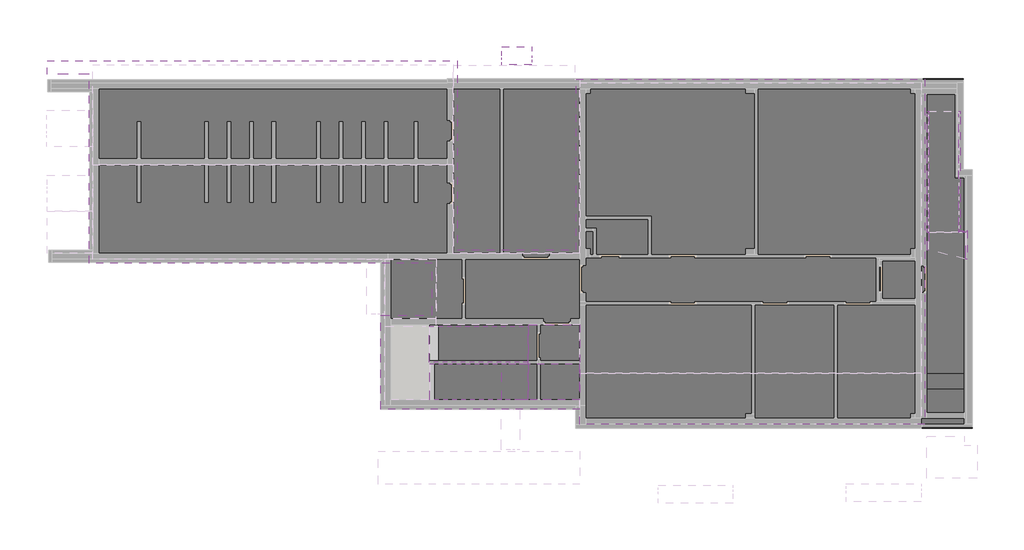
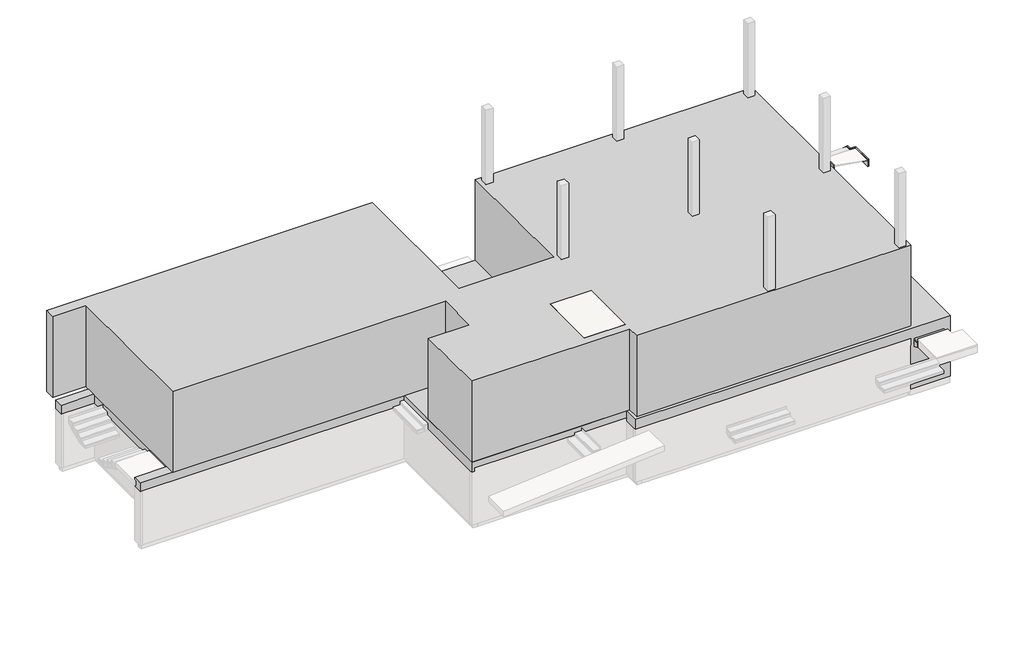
# One storey, part 3 of 3: 5 members, 5 stair flights, 2 proxies, 2 slabs.
"""IFC4 building model written with IfcOpenShell, lengths in millimetres."""

from ifc_helpers import new_model, si_unit, frame, origin, origin_with_axes, place, context, project, spatial, polyline, outline, extrude, faceted_brep, element, save

model = new_model("IFC4")

# Units and contexts
model_context = context("Model", 3, world=origin())
ifc_project = project(units=[si_unit("LENGTHUNIT", "METRE", prefix="MILLI")], contexts=[model_context])

# Site, building, storey
site = spatial("IfcSite", under=ifc_project)
building = spatial("IfcBuilding", under=site)
storey = spatial("IfcBuildingStorey", under=building, Name="Этаж -1", Elevation=-2700.0)

# Proxies
placement = place(None, origin())
element("IfcBuildingElementProxy", 1, Name="Ф Этаж 1 : Ф Этаж 1", ObjectType="Ф Этаж 1 : Ф Этаж 1", at=placement, inside=storey, context=model_context, shape_type="SweptSolid", body=[
    extrude(outline(polyline([(-1715.9332962, 11310.0), (11970.0, 11310.0), (11970.0, 5000.0), (15950.0, 5000.0), (15950.0, 10700.0), (27587.9990554, 10700.0), (27587.9990554, -820.0), (16070.0, -820.0), (16070.0, -320.0), (9430.291724, -320.0), (9430.291724, 2820.0), (11150.0, 2820.0), (11150.0, 4560.0), (-320.0, 4560.0), (-320.0, 10870.0), (-1715.9332962, 10870.0), (-1715.9332962, 11310.0)])), origin_with_axes(), (0.0, 0.0, 1.0), 3600.0),
])
element("IfcBuildingElementProxy", 2, Name="Ф Подвал : Ф Подвал", ObjectType="Ф Подвал : Ф Подвал", at=placement, inside=storey, context=model_context, shape_type="SweptSolid", body=[
    extrude(outline(polyline([(-300.0, 10280.0000008), (-1699.9999755, 10280.0000008), (-1699.9999755, 10680.0000008), (11650.0, 10680.0000008), (11650.0, 10710.0000008), (28870.0001713, 10710.0000008), (28870.0001713, 7679.9999048), (29169.9999881, 7679.9999048), (29169.9999881, -950.0), (15940.0, -950.0), (15940.0, -330.0), (9420.291724, -330.0), (9420.291724, 4580.0), (-1669.8806043, 4580.0), (-1669.8806043, 4980.0), (-300.0, 4980.0), (-300.0, 10280.0000008)])), frame((0.0, 0.0, -2700.0), z_axis=(0.0, 0.0, 1.0), x_axis=(1.0, 0.0, 0.0)), (0.0, 0.0, 1.0), 2700.0),
])

# Members
element("IfcMember", 3, ObjectType="Косоур - ширина: 50 мм", at=placement, inside=storey, context=model_context, shape_type="Brep", body=[
    faceted_brep([(28729.9990554, 9630.1367173, -50.0), (28779.9990554, 9630.1367173, -50.0), (28779.9990554, 9445.8842415, -50.0), (28729.9990554, 9445.8842415, -50.0), (28779.9990554, 5825.5100023, 3570.0), (28729.9990554, 5825.5100023, 3570.0), (28729.9990554, 5580.7367173, 3570.0), (28739.0617086, 5580.7367173, 3570.0), (28739.0617086, 5630.1367173, 3570.0), (28779.9990554, 5630.1367173, 3570.0), (28729.9990554, 9630.1367173, 187.6084916), (28779.9990554, 9630.1367173, 187.6084916), (28779.9990554, 5630.1367173, 3342.2781368), (28729.9990554, 5580.7367173, 3386.1957542), (28739.0617086, 5630.1367173, 3342.2781368), (28739.0617086, 5580.7367173, 3386.1957542)], [[[0, 1, 2, 3]], [[4, 5, 6, 7, 8, 9]], [[10, 11, 1, 0]], [[5, 4, 11, 10]], [[1, 11, 4, 9, 12, 2]], [[13, 3, 2, 12, 14, 15]], [[6, 5, 10, 0, 3, 13]], [[6, 13, 15, 7]], [[14, 8, 7, 15]], [[8, 14, 12, 9]]]),
])
element("IfcMember", 4, ObjectType="Косоур - ширина: 50 мм", at=placement, inside=storey, context=model_context, shape_type="SweptSolid", body=[
    extrude(outline(polyline([(9630.1367173, 187.6084916), (9630.1367173, -50.0), (9445.8842415, -50.0), (5580.7367173, 3386.1957542), (5580.7367173, 3570.0), (5825.5100023, 3570.0), (9630.1367173, 187.6084916)])), frame((27679.9990554, 0.0, 0.0), z_axis=(1.0, 0.0, 0.0), x_axis=(0.0, 1.0, 0.0)), (0.0, 0.0, 1.0), 50.0),
])
element("IfcMember", 5, ObjectType="Косоур - ширина: 50 мм", at=placement, inside=storey, context=model_context, shape_type="SweptSolid", body=[
    extrude(outline(polyline([(29009.0617086, 4690.3333696), (28959.0617086, 4690.3333696), (28959.0617086, 5580.1367173), (29009.0617086, 5630.1367173), (29009.0617086, 4690.3333696)])), frame((0.0, 0.0, 3270.0), z_axis=(0.0, 0.0, 1.0), x_axis=(1.0, 0.0, 0.0)), (0.0, 0.0, 1.0), 300.0),
])
element("IfcMember", 6, ObjectType="Косоур - ширина: 50 мм", at=placement, inside=storey, context=model_context, shape_type="SweptSolid", body=[
    extrude(outline(polyline([(27679.9990554, 5580.1367173), (27729.9990554, 5580.1367173), (27729.9990554, 4987.6937015), (27679.9990554, 4987.6937015), (27679.9990554, 5580.1367173)])), frame((0.0, 0.0, 3270.0), z_axis=(0.0, 0.0, 1.0), x_axis=(1.0, 0.0, 0.0)), (0.0, 0.0, 1.0), 300.0),
])
element("IfcMember", 7, ObjectType="Косоур - ширина: 50 мм", at=placement, inside=storey, context=model_context, shape_type="Brep", body=[
    faceted_brep([(28739.0617086, 5630.1367173, 3570.0), (28739.0617086, 5630.1367173, 3342.2781368), (28739.0617086, 5630.1367173, 3270.0), (28739.0617086, 5580.1367173, 3270.0), (28739.0617086, 5580.1367173, 3570.0), (28739.0617086, 5580.7367173, 3570.0), (28959.0617086, 5580.1367173, 3570.0), (29009.0617086, 5630.1367173, 3570.0), (28779.9990554, 5630.1367173, 3570.0), (28959.0617086, 5580.1367173, 3270.0), (29009.0617086, 5630.1367173, 3270.0)], [[[0, 1, 2, 3, 4, 5]], [[6, 7, 8, 0, 5, 4]], [[9, 6, 4, 3]], [[10, 9, 3, 2]], [[7, 10, 2, 1, 0, 8]], [[7, 6, 9, 10]]]),
])

# Slabs
element("IfcSlab", 8, ObjectType="Толщина 200 мм", at=placement, inside=storey, context=model_context, shape_type="Brep", body=[
    faceted_brep([(14355.5759675, 1200.0, 3600.0), (14355.5759675, 0.0, 3600.0), (14590.9861641, 0.0, 3600.0), (16075.5759675, 0.0, 3600.0), (16075.5759675, 2500.0, 3600.0), (14355.5759675, 2500.0, 3600.0), (14355.5759675, 0.0, 3450.0), (14355.5759675, 0.0, 3282.2949017), (14590.9861641, 0.0, 3400.0), (16075.5759675, 0.0, 3400.0), (16075.5759675, 2500.0, 3400.0), (14355.5759675, 2500.0, 3400.0), (14590.9861641, 1200.0, 3400.0), (14355.5759675, 1200.0, 3400.0), (14355.5759675, 1200.0, 3282.2949017)], [[[0, 1, 2, 3, 4, 5]], [[1, 6, 7, 8, 9, 3, 2]], [[4, 3, 9, 10]], [[5, 4, 10, 11]], [[8, 12, 13, 11, 10, 9]], [[1, 0, 13, 14, 7, 6]], [[0, 5, 11, 13]], [[12, 8, 7, 14]], [[13, 12, 14]]]),
])
element("IfcSlab", 9, ObjectType="Толщина 200 мм", at=placement, inside=storey, context=model_context, shape_type="SolidModel", body=[
    faceted_brep([(13468.0759675, 1200.0, -50.0), (13468.0759675, 0.0, -50.0), (13703.4861641, 0.0, -50.0), (16055.5759675, 0.0, -50.0), (16055.5759675, 1200.0, -50.0), (13703.4861641, 1200.0, -50.0), (13468.0759675, 0.0, -200.0), (13468.0759675, 0.0, -367.7050983), (13703.4861641, 0.0, -250.0), (16055.5759675, 0.0, -250.0), (16055.5759675, 1200.0, -250.0), (13468.0759675, 1200.0, -367.7050983), (13468.0759675, 1200.0, -200.0), (13703.4861641, 1200.0, -250.0)], [[[0, 1, 2, 3, 4, 5]], [[1, 6, 7, 8, 9, 3, 2]], [[4, 3, 9, 10]], [[11, 12, 0, 5, 4, 10, 13]], [[8, 13, 10, 9]], [[1, 0, 12, 11, 7, 6]], [[13, 8, 7, 11]]]),
    extrude(outline(polyline([(13455.5759675, 1200.0), (16055.5759675, 1200.0), (16055.5759675, 0.0), (13455.5759675, 0.0), (13455.5759675, 1200.0)])), frame((0.0, 0.0, -50.0), z_axis=(0.0, 0.0, 1.0), x_axis=(1.0, 0.0, 0.0)), (0.0, 0.0, 1.0), 50.0),
])

# Stair flights
element("IfcStairFlight", 10, ObjectType="Монолитный марш плитка", at=placement, inside=storey, context=model_context, shape_type="SolidModel", body=[
    faceted_brep([(28904.9999881, 2957.4999994, -2603.125), (28904.9999881, 3257.4999994, -2603.125), (27649.9990554, 3257.4999994, -2603.125), (27649.9990554, 2957.4999994, -2603.125), (28904.9999881, 2957.4999994, -2700.0), (28904.9999881, 3257.4999994, -2700.0), (27649.9990554, 3257.4999994, -2700.0), (27649.9990554, 2957.4999994, -2700.0), (28904.9999881, 2657.4999994, -2456.25), (28904.9999881, 2957.4999994, -2456.25), (27649.9990554, 2957.4999994, -2456.25), (27649.9990554, 2657.4999994, -2456.25), (28904.9999881, 2657.4999994, -2623.2621744), (28904.9999881, 2814.2410899, -2700.0), (27649.9990554, 2814.2410899, -2700.0), (27649.9990554, 2657.4999994, -2623.2621744), (28904.9999881, 2357.4999994, -2309.375), (28904.9999881, 2657.4999994, -2309.375), (27649.9990554, 2657.4999994, -2309.375), (27649.9990554, 2357.4999994, -2309.375), (28904.9999881, 2357.4999994, -2476.3871744), (27649.9990554, 2357.4999994, -2476.3871744), (28904.9999881, 2057.4999994, -2162.5), (28904.9999881, 2357.4999994, -2162.5), (27649.9990554, 2357.4999994, -2162.5), (27649.9990554, 2057.4999994, -2162.5), (28904.9999881, 2057.4999994, -2329.5121744), (27649.9990554, 2057.4999994, -2329.5121744), (28904.9999881, 1757.4999994, -2015.625), (28904.9999881, 2057.4999994, -2015.625), (27649.9990554, 2057.4999994, -2015.625), (27649.9990554, 1757.4999994, -2015.625), (28904.9999881, 1757.4999994, -2182.6371744), (27649.9990554, 1757.4999994, -2182.6371744), (28904.9999881, 1457.4999994, -1868.75), (28904.9999881, 1757.4999994, -1868.75), (27649.9990554, 1757.4999994, -1868.75), (27649.9990554, 1457.4999994, -1868.75), (28904.9999881, 1457.4999994, -2035.7621744), (27649.9990554, 1457.4999994, -2035.7621744), (28904.9999881, 1157.4999994, -1721.875), (28904.9999881, 1457.4999994, -1721.875), (27649.9990554, 1457.4999994, -1721.875), (27649.9990554, 1157.4999994, -1721.875), (28904.9999881, 1157.4999994, -1888.8871744), (27649.9990554, 1157.4999994, -1888.8871744), (28904.9999881, 857.4999994, -1575.0), (28904.9999881, 1157.4999994, -1575.0), (27649.9990554, 1157.4999994, -1575.0), (27649.9990554, 857.4999994, -1575.0), (28904.9999881, 857.4999994, -1742.0121744), (27649.9990554, 857.4999994, -1742.0121744), (28904.9999881, 557.4999994, -1428.125), (28904.9999881, 857.4999994, -1428.125), (27649.9990554, 857.4999994, -1428.125), (27649.9990554, 557.4999994, -1428.125), (28904.9999881, 557.4999994, -1595.1371744), (27649.9990554, 557.4999994, -1595.1371744), (28904.9999881, 257.4999994, -1281.25), (28904.9999881, 557.4999994, -1281.25), (27649.9990554, 557.4999994, -1281.25), (27649.9990554, 257.4999994, -1281.25), (28904.9999881, 257.4999994, -1448.2621744), (27649.9990554, 257.4999994, -1448.2621744), (28904.9999881, -42.5000006, -1134.375), (28904.9999881, 257.4999994, -1134.375), (27649.9990554, 257.4999994, -1134.375), (27649.9990554, -42.5000006, -1134.375), (28904.9999881, -42.5000006, -1301.3871744), (27649.9990554, -42.5000006, -1301.3871744), (28904.9999881, -342.5000006, -987.5), (28904.9999881, -42.5000006, -987.5), (27649.9990554, -42.5000006, -987.5), (27649.9990554, -342.5000006, -987.5), (28904.9999881, -342.5000006, -1154.5121744), (27649.9990554, -342.5000006, -1154.5121744), (28904.9999881, -642.5000006, -840.625), (28904.9999881, -342.5000006, -840.625), (27649.9990554, -342.5000006, -840.625), (27649.9990554, -642.5000006, -840.625), (28904.9999881, -642.5000006, -1007.6371744), (27649.9990554, -642.5000006, -1007.6371744), (28904.9999881, -942.5000006, -693.75), (28904.9999881, -642.5000006, -693.75), (27649.9990554, -642.5000006, -693.75), (27649.9990554, -942.5000006, -693.75), (28904.9999881, -942.5000006, -860.7621744), (27649.9990554, -942.5000006, -860.7621744), (28904.9999881, -942.5000006, -546.875), (27649.9990554, -942.5000006, -546.875), (27649.9990554, -1230.0000006, -546.875), (27649.9990554, -1242.5000006, -546.875), (28904.9999881, -1242.5000006, -546.875), (28904.9999881, -1230.0000006, -546.875), (28904.9999881, -1242.5000006, -713.8871744), (28904.9999881, -1230.0000006, -720.0069661), (27649.9990554, -1230.0000006, -720.0069661), (27649.9990554, -1242.5000006, -713.8871744)], [[[0, 1, 2, 3]], [[1, 0, 4, 5]], [[2, 1, 5, 6]], [[3, 2, 6, 7]], [[8, 9, 10, 11]], [[4, 0, 9, 8, 12, 13]], [[0, 3, 10, 9]], [[3, 7, 14, 15, 11, 10]], [[16, 17, 18, 19]], [[17, 16, 20, 12, 8]], [[8, 11, 18, 17]], [[19, 18, 11, 15, 21]], [[22, 23, 24, 25]], [[23, 22, 26, 20, 16]], [[16, 19, 24, 23]], [[25, 24, 19, 21, 27]], [[28, 29, 30, 31]], [[29, 28, 32, 26, 22]], [[22, 25, 30, 29]], [[31, 30, 25, 27, 33]], [[34, 35, 36, 37]], [[35, 34, 38, 32, 28]], [[28, 31, 36, 35]], [[37, 36, 31, 33, 39]], [[40, 41, 42, 43]], [[41, 40, 44, 38, 34]], [[34, 37, 42, 41]], [[43, 42, 37, 39, 45]], [[46, 47, 48, 49]], [[47, 46, 50, 44, 40]], [[40, 43, 48, 47]], [[49, 48, 43, 45, 51]], [[52, 53, 54, 55]], [[53, 52, 56, 50, 46]], [[46, 49, 54, 53]], [[55, 54, 49, 51, 57]], [[58, 59, 60, 61]], [[59, 58, 62, 56, 52]], [[52, 55, 60, 59]], [[61, 60, 55, 57, 63]], [[64, 65, 66, 67]], [[65, 64, 68, 62, 58]], [[58, 61, 66, 65]], [[67, 66, 61, 63, 69]], [[70, 71, 72, 73]], [[71, 70, 74, 68, 64]], [[64, 67, 72, 71]], [[73, 72, 67, 69, 75]], [[76, 77, 78, 79]], [[77, 76, 80, 74, 70]], [[70, 73, 78, 77]], [[79, 78, 73, 75, 81]], [[82, 83, 84, 85]], [[83, 82, 86, 80, 76]], [[76, 79, 84, 83]], [[85, 84, 79, 81, 87]], [[88, 89, 90, 91, 92, 93]], [[82, 88, 93, 92, 94, 95, 86]], [[82, 85, 89, 88]], [[89, 85, 87, 96, 97, 91, 90]], [[92, 91, 97, 94]], [[5, 4, 13, 14, 7, 6]], [[14, 13, 12, 20, 26, 32, 38, 44, 50, 56, 62, 68, 74, 80, 86, 95, 94, 97, 96, 87, 81, 75, 69, 63, 57, 51, 45, 39, 33, 27, 21, 15]]]),
    extrude(outline(polyline([(27649.9990554, 3257.4999994), (27649.9990554, 3269.9999994), (28904.9999881, 3269.9999994), (28904.9999881, 3257.4999994), (27649.9990554, 3257.4999994)])), frame((0.0, 0.0, -2700.0), z_axis=(0.0, 0.0, 1.0), x_axis=(1.0, 0.0, 0.0)), (0.0, 0.0, 1.0), 96.875),
    extrude(outline(polyline([(28904.9999881, 2969.9999994), (27649.9990554, 2969.9999994), (27649.9990554, 3269.9999994), (28904.9999881, 3269.9999994), (28904.9999881, 2969.9999994)])), frame((0.0, 0.0, -2603.125), z_axis=(0.0, 0.0, 1.0), x_axis=(1.0, 0.0, 0.0)), (0.0, 0.0, 1.0), 50.0),
    extrude(outline(polyline([(27649.9990554, 2957.4999994), (27649.9990554, 2969.9999994), (28904.9999881, 2969.9999994), (28904.9999881, 2957.4999994), (27649.9990554, 2957.4999994)])), frame((0.0, 0.0, -2603.125), z_axis=(0.0, 0.0, 1.0), x_axis=(1.0, 0.0, 0.0)), (0.0, 0.0, 1.0), 146.875),
    extrude(outline(polyline([(28904.9999881, 2669.9999994), (27649.9990554, 2669.9999994), (27649.9990554, 2969.9999994), (28904.9999881, 2969.9999994), (28904.9999881, 2669.9999994)])), frame((0.0, 0.0, -2456.25), z_axis=(0.0, 0.0, 1.0), x_axis=(1.0, 0.0, 0.0)), (0.0, 0.0, 1.0), 50.0),
    extrude(outline(polyline([(27649.9990554, 2657.4999994), (27649.9990554, 2669.9999994), (28904.9999881, 2669.9999994), (28904.9999881, 2657.4999994), (27649.9990554, 2657.4999994)])), frame((0.0, 0.0, -2456.25), z_axis=(0.0, 0.0, 1.0), x_axis=(1.0, 0.0, 0.0)), (0.0, 0.0, 1.0), 146.875),
    extrude(outline(polyline([(28904.9999881, 2369.9999994), (27649.9990554, 2369.9999994), (27649.9990554, 2669.9999994), (28904.9999881, 2669.9999994), (28904.9999881, 2369.9999994)])), frame((0.0, 0.0, -2309.375), z_axis=(0.0, 0.0, 1.0), x_axis=(1.0, 0.0, 0.0)), (0.0, 0.0, 1.0), 50.0),
    extrude(outline(polyline([(27649.9990554, 2357.4999994), (27649.9990554, 2369.9999994), (28904.9999881, 2369.9999994), (28904.9999881, 2357.4999994), (27649.9990554, 2357.4999994)])), frame((0.0, 0.0, -2309.375), z_axis=(0.0, 0.0, 1.0), x_axis=(1.0, 0.0, 0.0)), (0.0, 0.0, 1.0), 146.875),
    extrude(outline(polyline([(28904.9999881, 2069.9999994), (27649.9990554, 2069.9999994), (27649.9990554, 2369.9999994), (28904.9999881, 2369.9999994), (28904.9999881, 2069.9999994)])), frame((0.0, 0.0, -2162.5), z_axis=(0.0, 0.0, 1.0), x_axis=(1.0, 0.0, 0.0)), (0.0, 0.0, 1.0), 50.0),
    extrude(outline(polyline([(27649.9990554, 2057.4999994), (27649.9990554, 2069.9999994), (28904.9999881, 2069.9999994), (28904.9999881, 2057.4999994), (27649.9990554, 2057.4999994)])), frame((0.0, 0.0, -2162.5), z_axis=(0.0, 0.0, 1.0), x_axis=(1.0, 0.0, 0.0)), (0.0, 0.0, 1.0), 146.875),
    extrude(outline(polyline([(28904.9999881, 1769.9999994), (27649.9990554, 1769.9999994), (27649.9990554, 2069.9999994), (28904.9999881, 2069.9999994), (28904.9999881, 1769.9999994)])), frame((0.0, 0.0, -2015.625), z_axis=(0.0, 0.0, 1.0), x_axis=(1.0, 0.0, 0.0)), (0.0, 0.0, 1.0), 50.0),
    extrude(outline(polyline([(27649.9990554, 1757.4999994), (27649.9990554, 1769.9999994), (28904.9999881, 1769.9999994), (28904.9999881, 1757.4999994), (27649.9990554, 1757.4999994)])), frame((0.0, 0.0, -2015.625), z_axis=(0.0, 0.0, 1.0), x_axis=(1.0, 0.0, 0.0)), (0.0, 0.0, 1.0), 146.875),
    extrude(outline(polyline([(28904.9999881, 1469.9999994), (27649.9990554, 1469.9999994), (27649.9990554, 1769.9999994), (28904.9999881, 1769.9999994), (28904.9999881, 1469.9999994)])), frame((0.0, 0.0, -1868.75), z_axis=(0.0, 0.0, 1.0), x_axis=(1.0, 0.0, 0.0)), (0.0, 0.0, 1.0), 50.0),
    extrude(outline(polyline([(27649.9990554, 1457.4999994), (27649.9990554, 1469.9999994), (28904.9999881, 1469.9999994), (28904.9999881, 1457.4999994), (27649.9990554, 1457.4999994)])), frame((0.0, 0.0, -1868.75), z_axis=(0.0, 0.0, 1.0), x_axis=(1.0, 0.0, 0.0)), (0.0, 0.0, 1.0), 146.875),
    extrude(outline(polyline([(28904.9999881, 1169.9999994), (27649.9990554, 1169.9999994), (27649.9990554, 1469.9999994), (28904.9999881, 1469.9999994), (28904.9999881, 1169.9999994)])), frame((0.0, 0.0, -1721.875), z_axis=(0.0, 0.0, 1.0), x_axis=(1.0, 0.0, 0.0)), (0.0, 0.0, 1.0), 50.0),
    extrude(outline(polyline([(27649.9990554, 1157.4999994), (27649.9990554, 1169.9999994), (28904.9999881, 1169.9999994), (28904.9999881, 1157.4999994), (27649.9990554, 1157.4999994)])), frame((0.0, 0.0, -1721.875), z_axis=(0.0, 0.0, 1.0), x_axis=(1.0, 0.0, 0.0)), (0.0, 0.0, 1.0), 146.875),
    extrude(outline(polyline([(28904.9999881, 869.9999994), (27649.9990554, 869.9999994), (27649.9990554, 1169.9999994), (28904.9999881, 1169.9999994), (28904.9999881, 869.9999994)])), frame((0.0, 0.0, -1575.0), z_axis=(0.0, 0.0, 1.0), x_axis=(1.0, 0.0, 0.0)), (0.0, 0.0, 1.0), 50.0),
    extrude(outline(polyline([(27649.9990554, 857.4999994), (27649.9990554, 869.9999994), (28904.9999881, 869.9999994), (28904.9999881, 857.4999994), (27649.9990554, 857.4999994)])), frame((0.0, 0.0, -1575.0), z_axis=(0.0, 0.0, 1.0), x_axis=(1.0, 0.0, 0.0)), (0.0, 0.0, 1.0), 146.875),
    extrude(outline(polyline([(28904.9999881, 569.9999994), (27649.9990554, 569.9999994), (27649.9990554, 869.9999994), (28904.9999881, 869.9999994), (28904.9999881, 569.9999994)])), frame((0.0, 0.0, -1428.125), z_axis=(0.0, 0.0, 1.0), x_axis=(1.0, 0.0, 0.0)), (0.0, 0.0, 1.0), 50.0),
    extrude(outline(polyline([(27649.9990554, 557.4999994), (27649.9990554, 569.9999994), (28904.9999881, 569.9999994), (28904.9999881, 557.4999994), (27649.9990554, 557.4999994)])), frame((0.0, 0.0, -1428.125), z_axis=(0.0, 0.0, 1.0), x_axis=(1.0, 0.0, 0.0)), (0.0, 0.0, 1.0), 146.875),
    extrude(outline(polyline([(28904.9999881, 269.9999994), (27649.9990554, 269.9999994), (27649.9990554, 569.9999994), (28904.9999881, 569.9999994), (28904.9999881, 269.9999994)])), frame((0.0, 0.0, -1281.25), z_axis=(0.0, 0.0, 1.0), x_axis=(1.0, 0.0, 0.0)), (0.0, 0.0, 1.0), 50.0),
    extrude(outline(polyline([(27649.9990554, 257.4999994), (27649.9990554, 269.9999994), (28904.9999881, 269.9999994), (28904.9999881, 257.4999994), (27649.9990554, 257.4999994)])), frame((0.0, 0.0, -1281.25), z_axis=(0.0, 0.0, 1.0), x_axis=(1.0, 0.0, 0.0)), (0.0, 0.0, 1.0), 146.875),
    extrude(outline(polyline([(28904.9999881, -30.0000006), (27649.9990554, -30.0000006), (27649.9990554, 269.9999994), (28904.9999881, 269.9999994), (28904.9999881, -30.0000006)])), frame((0.0, 0.0, -1134.375), z_axis=(0.0, 0.0, 1.0), x_axis=(1.0, 0.0, 0.0)), (0.0, 0.0, 1.0), 50.0),
    extrude(outline(polyline([(27649.9990554, -42.5000006), (27649.9990554, -30.0000006), (28904.9999881, -30.0000006), (28904.9999881, -42.5000006), (27649.9990554, -42.5000006)])), frame((0.0, 0.0, -1134.375), z_axis=(0.0, 0.0, 1.0), x_axis=(1.0, 0.0, 0.0)), (0.0, 0.0, 1.0), 146.875),
    extrude(outline(polyline([(28904.9999881, -330.0000006), (27649.9990554, -330.0000006), (27649.9990554, -30.0000006), (28904.9999881, -30.0000006), (28904.9999881, -330.0000006)])), frame((0.0, 0.0, -987.5), z_axis=(0.0, 0.0, 1.0), x_axis=(1.0, 0.0, 0.0)), (0.0, 0.0, 1.0), 50.0),
    extrude(outline(polyline([(27649.9990554, -342.5000006), (27649.9990554, -330.0000006), (28904.9999881, -330.0000006), (28904.9999881, -342.5000006), (27649.9990554, -342.5000006)])), frame((0.0, 0.0, -987.5), z_axis=(0.0, 0.0, 1.0), x_axis=(1.0, 0.0, 0.0)), (0.0, 0.0, 1.0), 146.875),
    extrude(outline(polyline([(28904.9999881, -630.0000006), (27649.9990554, -630.0000006), (27649.9990554, -330.0000006), (28904.9999881, -330.0000006), (28904.9999881, -630.0000006)])), frame((0.0, 0.0, -840.625), z_axis=(0.0, 0.0, 1.0), x_axis=(1.0, 0.0, 0.0)), (0.0, 0.0, 1.0), 50.0),
    extrude(outline(polyline([(27649.9990554, -642.5000006), (27649.9990554, -630.0000006), (28904.9999881, -630.0000006), (28904.9999881, -642.5000006), (27649.9990554, -642.5000006)])), frame((0.0, 0.0, -840.625), z_axis=(0.0, 0.0, 1.0), x_axis=(1.0, 0.0, 0.0)), (0.0, 0.0, 1.0), 146.875),
    extrude(outline(polyline([(28904.9999881, -930.0000006), (27649.9990554, -930.0000006), (27649.9990554, -630.0000006), (28904.9999881, -630.0000006), (28904.9999881, -930.0000006)])), frame((0.0, 0.0, -693.75), z_axis=(0.0, 0.0, 1.0), x_axis=(1.0, 0.0, 0.0)), (0.0, 0.0, 1.0), 50.0),
    extrude(outline(polyline([(27649.9990554, -942.5000006), (27649.9990554, -930.0000006), (28904.9999881, -930.0000006), (28904.9999881, -942.5000006), (27649.9990554, -942.5000006)])), frame((0.0, 0.0, -693.75), z_axis=(0.0, 0.0, 1.0), x_axis=(1.0, 0.0, 0.0)), (0.0, 0.0, 1.0), 146.875),
    extrude(outline(polyline([(27649.9990554, -1242.5000006), (27649.9990554, -1230.0000006), (28904.9999881, -1230.0000006), (28904.9999881, -1242.5000006), (27649.9990554, -1242.5000006)])), frame((0.0, 0.0, -546.875), z_axis=(0.0, 0.0, 1.0), x_axis=(1.0, 0.0, 0.0)), (0.0, 0.0, 1.0), 146.875),
    extrude(outline(polyline([(28904.9999881, -1230.0000006), (27649.9990554, -1230.0000006), (27649.9990554, -930.0000006), (28904.9999881, -930.0000006), (28904.9999881, -1230.0000006)])), frame((0.0, 0.0, -546.875), z_axis=(0.0, 0.0, 1.0), x_axis=(1.0, 0.0, 0.0)), (0.0, 0.0, 1.0), 50.0),
])
element("IfcStairFlight", 11, ObjectType="Монолитный марш отд.", at=placement, inside=storey, context=model_context, shape_type="SolidModel", body=[
    faceted_brep([(13137.791724, 1300.0, -2600.0), (13437.791724, 1300.0, -2600.0), (13437.791724, 2500.0, -2600.0), (13137.791724, 2500.0, -2600.0), (13137.791724, 1300.0, -2700.0), (13437.791724, 1300.0, -2700.0), (13437.791724, 2500.0, -2700.0), (13137.791724, 2500.0, -2700.0), (12837.791724, 1300.0, -2450.0), (13137.791724, 1300.0, -2450.0), (13137.791724, 2500.0, -2450.0), (12837.791724, 2500.0, -2450.0), (12837.791724, 1300.0, -2617.7050983), (13002.3815273, 1300.0, -2700.0), (13002.3815273, 2500.0, -2700.0), (12837.791724, 2500.0, -2617.7050983), (12537.791724, 1300.0, -2300.0), (12837.791724, 1300.0, -2300.0), (12837.791724, 2500.0, -2300.0), (12537.791724, 2500.0, -2300.0), (12537.791724, 1300.0, -2467.7050983), (12537.791724, 2500.0, -2467.7050983), (12237.791724, 1300.0, -2150.0), (12537.791724, 1300.0, -2150.0), (12537.791724, 2500.0, -2150.0), (12237.791724, 2500.0, -2150.0), (12237.791724, 1300.0, -2317.7050983), (12237.791724, 2500.0, -2317.7050983), (11937.791724, 1300.0, -2000.0), (12237.791724, 1300.0, -2000.0), (12237.791724, 2500.0, -2000.0), (11937.791724, 2500.0, -2000.0), (11937.791724, 1300.0, -2167.7050983), (11937.791724, 2500.0, -2167.7050983), (11637.791724, 1300.0, -1850.0), (11937.791724, 1300.0, -1850.0), (11937.791724, 2500.0, -1850.0), (11637.791724, 2500.0, -1850.0), (11637.791724, 1300.0, -2017.7050983), (11637.791724, 2500.0, -2017.7050983), (11337.791724, 1300.0, -1700.0), (11637.791724, 1300.0, -1700.0), (11637.791724, 2500.0, -1700.0), (11337.791724, 2500.0, -1700.0), (11337.791724, 1300.0, -1867.7050983), (11337.791724, 2500.0, -1867.7050983), (11337.791724, 1300.0, -1550.0), (11337.791724, 2500.0, -1550.0), (11050.291724, 2500.0, -1550.0), (11037.791724, 2500.0, -1550.0), (11037.791724, 1300.0, -1550.0), (11050.291724, 1300.0, -1550.0), (11037.791724, 1300.0, -1600.0), (11037.791724, 1300.0, -1717.7050983), (11050.291724, 2500.0, -1723.9550983), (11037.791724, 2500.0, -1717.7050983)], [[[0, 1, 2, 3]], [[1, 0, 4, 5]], [[2, 1, 5, 6]], [[3, 2, 6, 7]], [[8, 9, 10, 11]], [[4, 0, 9, 8, 12, 13]], [[0, 3, 10, 9]], [[3, 7, 14, 15, 11, 10]], [[16, 17, 18, 19]], [[17, 16, 20, 12, 8]], [[8, 11, 18, 17]], [[19, 18, 11, 15, 21]], [[22, 23, 24, 25]], [[23, 22, 26, 20, 16]], [[16, 19, 24, 23]], [[25, 24, 19, 21, 27]], [[28, 29, 30, 31]], [[29, 28, 32, 26, 22]], [[22, 25, 30, 29]], [[31, 30, 25, 27, 33]], [[34, 35, 36, 37]], [[35, 34, 38, 32, 28]], [[28, 31, 36, 35]], [[37, 36, 31, 33, 39]], [[40, 41, 42, 43]], [[41, 40, 44, 38, 34]], [[34, 37, 42, 41]], [[43, 42, 37, 39, 45]], [[46, 47, 48, 49, 50, 51]], [[40, 46, 51, 50, 52, 53, 44]], [[40, 43, 47, 46]], [[47, 43, 45, 54, 55, 49, 48]], [[50, 49, 55, 53, 52]], [[5, 4, 13, 14, 7, 6]], [[14, 13, 12, 20, 26, 32, 38, 44, 53, 55, 54, 45, 39, 33, 27, 21, 15]]]),
    extrude(outline(polyline([(13437.791724, 2500.0), (13450.291724, 2500.0), (13450.291724, 1300.0), (13437.791724, 1300.0), (13437.791724, 2500.0)])), frame((0.0, 0.0, -2700.0), z_axis=(0.0, 0.0, 1.0), x_axis=(1.0, 0.0, 0.0)), (0.0, 0.0, 1.0), 100.0),
    extrude(outline(polyline([(13150.291724, 1300.0), (13150.291724, 2500.0), (13450.291724, 2500.0), (13450.291724, 1300.0), (13150.291724, 1300.0)])), frame((0.0, 0.0, -2600.0), z_axis=(0.0, 0.0, 1.0), x_axis=(1.0, 0.0, 0.0)), (0.0, 0.0, 1.0), 50.0),
    extrude(outline(polyline([(13137.791724, 2500.0), (13150.291724, 2500.0), (13150.291724, 1300.0), (13137.791724, 1300.0), (13137.791724, 2500.0)])), frame((0.0, 0.0, -2600.0), z_axis=(0.0, 0.0, 1.0), x_axis=(1.0, 0.0, 0.0)), (0.0, 0.0, 1.0), 150.0),
    extrude(outline(polyline([(12850.291724, 1300.0), (12850.291724, 2500.0), (13150.291724, 2500.0), (13150.291724, 1300.0), (12850.291724, 1300.0)])), frame((0.0, 0.0, -2450.0), z_axis=(0.0, 0.0, 1.0), x_axis=(1.0, 0.0, 0.0)), (0.0, 0.0, 1.0), 50.0),
    extrude(outline(polyline([(12837.791724, 2500.0), (12850.291724, 2500.0), (12850.291724, 1300.0), (12837.791724, 1300.0), (12837.791724, 2500.0)])), frame((0.0, 0.0, -2450.0), z_axis=(0.0, 0.0, 1.0), x_axis=(1.0, 0.0, 0.0)), (0.0, 0.0, 1.0), 150.0),
    extrude(outline(polyline([(12550.291724, 1300.0), (12550.291724, 2500.0), (12850.291724, 2500.0), (12850.291724, 1300.0), (12550.291724, 1300.0)])), frame((0.0, 0.0, -2300.0), z_axis=(0.0, 0.0, 1.0), x_axis=(1.0, 0.0, 0.0)), (0.0, 0.0, 1.0), 50.0),
    extrude(outline(polyline([(12537.791724, 2500.0), (12550.291724, 2500.0), (12550.291724, 1300.0), (12537.791724, 1300.0), (12537.791724, 2500.0)])), frame((0.0, 0.0, -2300.0), z_axis=(0.0, 0.0, 1.0), x_axis=(1.0, 0.0, 0.0)), (0.0, 0.0, 1.0), 150.0),
    extrude(outline(polyline([(12250.291724, 1300.0), (12250.291724, 2500.0), (12550.291724, 2500.0), (12550.291724, 1300.0), (12250.291724, 1300.0)])), frame((0.0, 0.0, -2150.0), z_axis=(0.0, 0.0, 1.0), x_axis=(1.0, 0.0, 0.0)), (0.0, 0.0, 1.0), 50.0),
    extrude(outline(polyline([(12237.791724, 2500.0), (12250.291724, 2500.0), (12250.291724, 1300.0), (12237.791724, 1300.0), (12237.791724, 2500.0)])), frame((0.0, 0.0, -2150.0), z_axis=(0.0, 0.0, 1.0), x_axis=(1.0, 0.0, 0.0)), (0.0, 0.0, 1.0), 150.0),
    extrude(outline(polyline([(11950.291724, 1300.0), (11950.291724, 2500.0), (12250.291724, 2500.0), (12250.291724, 1300.0), (11950.291724, 1300.0)])), frame((0.0, 0.0, -2000.0), z_axis=(0.0, 0.0, 1.0), x_axis=(1.0, 0.0, 0.0)), (0.0, 0.0, 1.0), 50.0),
    extrude(outline(polyline([(11937.791724, 2500.0), (11950.291724, 2500.0), (11950.291724, 1300.0), (11937.791724, 1300.0), (11937.791724, 2500.0)])), frame((0.0, 0.0, -2000.0), z_axis=(0.0, 0.0, 1.0), x_axis=(1.0, 0.0, 0.0)), (0.0, 0.0, 1.0), 150.0),
    extrude(outline(polyline([(11650.291724, 1300.0), (11650.291724, 2500.0), (11950.291724, 2500.0), (11950.291724, 1300.0), (11650.291724, 1300.0)])), frame((0.0, 0.0, -1850.0), z_axis=(0.0, 0.0, 1.0), x_axis=(1.0, 0.0, 0.0)), (0.0, 0.0, 1.0), 50.0),
    extrude(outline(polyline([(11637.791724, 2500.0), (11650.291724, 2500.0), (11650.291724, 1300.0), (11637.791724, 1300.0), (11637.791724, 2500.0)])), frame((0.0, 0.0, -1850.0), z_axis=(0.0, 0.0, 1.0), x_axis=(1.0, 0.0, 0.0)), (0.0, 0.0, 1.0), 150.0),
    extrude(outline(polyline([(11350.291724, 1300.0), (11350.291724, 2500.0), (11650.291724, 2500.0), (11650.291724, 1300.0), (11350.291724, 1300.0)])), frame((0.0, 0.0, -1700.0), z_axis=(0.0, 0.0, 1.0), x_axis=(1.0, 0.0, 0.0)), (0.0, 0.0, 1.0), 50.0),
    extrude(outline(polyline([(11337.791724, 2500.0), (11350.291724, 2500.0), (11350.291724, 1300.0), (11337.791724, 1300.0), (11337.791724, 2500.0)])), frame((0.0, 0.0, -1700.0), z_axis=(0.0, 0.0, 1.0), x_axis=(1.0, 0.0, 0.0)), (0.0, 0.0, 1.0), 150.0),
    extrude(outline(polyline([(11037.791724, 2500.0), (11050.291724, 2500.0), (11050.291724, 1300.0), (11037.791724, 1300.0), (11037.791724, 2500.0)])), frame((0.0, 0.0, -1550.0), z_axis=(0.0, 0.0, 1.0), x_axis=(1.0, 0.0, 0.0)), (0.0, 0.0, 1.0), 150.0),
    extrude(outline(polyline([(11050.291724, 1300.0), (11050.291724, 2500.0), (11350.291724, 2500.0), (11350.291724, 1300.0), (11050.291724, 1300.0)])), frame((0.0, 0.0, -1550.0), z_axis=(0.0, 0.0, 1.0), x_axis=(1.0, 0.0, 0.0)), (0.0, 0.0, 1.0), 50.0),
])
element("IfcStairFlight", 12, ObjectType="Монолитный марш", at=placement, inside=storey, context=model_context, shape_type="Brep", body=[
    faceted_brep([(14044.7036388, 1250.2996937, 150.0), (14344.7036388, 1250.2996937, 150.0), (14344.7036388, 2450.2996937, 150.0), (14044.7036388, 2450.2996937, 150.0), (14044.7036388, 1250.2996937, -17.7050983), (14309.2934422, 1250.2996937, -150.0), (14344.7036388, 1250.2996937, -150.0), (14344.7036388, 2450.2996937, -150.0), (14309.2934422, 2450.2996937, -150.0), (14044.7036388, 2450.2996937, -17.7050983), (13744.7036388, 1250.2996937, 300.0), (14044.7036388, 1250.2996937, 300.0), (14044.7036388, 2450.2996937, 300.0), (13744.7036388, 2450.2996937, 300.0), (13744.7036388, 1250.2996937, 132.2949017), (13744.7036388, 2450.2996937, 132.2949017), (13444.7036388, 1250.2996937, 450.0), (13744.7036388, 1250.2996937, 450.0), (13744.7036388, 2450.2996937, 450.0), (13444.7036388, 2450.2996937, 450.0), (13444.7036388, 1250.2996937, 282.2949017), (13444.7036388, 2450.2996937, 282.2949017), (13144.7036388, 1250.2996937, 600.0), (13444.7036388, 1250.2996937, 600.0), (13444.7036388, 2450.2996937, 600.0), (13144.7036388, 2450.2996937, 600.0), (13144.7036388, 1250.2996937, 432.2949017), (13144.7036388, 2450.2996937, 432.2949017), (12844.7036388, 1250.2996937, 750.0), (13144.7036388, 1250.2996937, 750.0), (13144.7036388, 2450.2996937, 750.0), (12844.7036388, 2450.2996937, 750.0), (12844.7036388, 1250.2996937, 582.2949017), (12844.7036388, 2450.2996937, 582.2949017), (12544.7036388, 1250.2996937, 900.0), (12844.7036388, 1250.2996937, 900.0), (12844.7036388, 2450.2996937, 900.0), (12544.7036388, 2450.2996937, 900.0), (12544.7036388, 1250.2996937, 732.2949017), (12544.7036388, 2450.2996937, 732.2949017), (12244.7036388, 1250.2996937, 1050.0), (12544.7036388, 1250.2996937, 1050.0), (12544.7036388, 2450.2996937, 1050.0), (12244.7036388, 2450.2996937, 1050.0), (12244.7036388, 1250.2996937, 882.2949017), (12244.7036388, 2450.2996937, 882.2949017), (11944.7036388, 1250.2996937, 1200.0), (12244.7036388, 1250.2996937, 1200.0), (12244.7036388, 2450.2996937, 1200.0), (11944.7036388, 2450.2996937, 1200.0), (11944.7036388, 1250.2996937, 1032.2949017), (11944.7036388, 2450.2996937, 1032.2949017), (11644.7036388, 1250.2996937, 1350.0), (11944.7036388, 1250.2996937, 1350.0), (11944.7036388, 2450.2996937, 1350.0), (11644.7036388, 2450.2996937, 1350.0), (11644.7036388, 1250.2996937, 1182.2949017), (11644.7036388, 2450.2996937, 1182.2949017), (11344.7036388, 1250.2996937, 1500.0), (11644.7036388, 1250.2996937, 1500.0), (11644.7036388, 2450.2996937, 1500.0), (11344.7036388, 2450.2996937, 1500.0), (11344.7036388, 1250.2996937, 1332.2949017), (11344.7036388, 2450.2996937, 1332.2949017), (11044.7036388, 1250.2996937, 1650.0), (11344.7036388, 1250.2996937, 1650.0), (11344.7036388, 2450.2996937, 1650.0), (11044.7036388, 2450.2996937, 1650.0), (11044.7036388, 1250.2996937, 1600.0), (11044.7036388, 1250.2996937, 1482.2949017), (11044.7036388, 2450.2996937, 1482.2949017)], [[[0, 1, 2, 3]], [[1, 0, 4, 5, 6]], [[2, 1, 6, 7]], [[3, 2, 7, 8, 9]], [[10, 11, 12, 13]], [[11, 10, 14, 4, 0]], [[0, 3, 12, 11]], [[13, 12, 3, 9, 15]], [[16, 17, 18, 19]], [[17, 16, 20, 14, 10]], [[10, 13, 18, 17]], [[19, 18, 13, 15, 21]], [[22, 23, 24, 25]], [[23, 22, 26, 20, 16]], [[16, 19, 24, 23]], [[25, 24, 19, 21, 27]], [[28, 29, 30, 31]], [[29, 28, 32, 26, 22]], [[22, 25, 30, 29]], [[31, 30, 25, 27, 33]], [[34, 35, 36, 37]], [[35, 34, 38, 32, 28]], [[28, 31, 36, 35]], [[37, 36, 31, 33, 39]], [[40, 41, 42, 43]], [[41, 40, 44, 38, 34]], [[34, 37, 42, 41]], [[43, 42, 37, 39, 45]], [[46, 47, 48, 49]], [[47, 46, 50, 44, 40]], [[40, 43, 48, 47]], [[49, 48, 43, 45, 51]], [[52, 53, 54, 55]], [[53, 52, 56, 50, 46]], [[46, 49, 54, 53]], [[55, 54, 49, 51, 57]], [[58, 59, 60, 61]], [[59, 58, 62, 56, 52]], [[52, 55, 60, 59]], [[61, 60, 55, 57, 63]], [[64, 65, 66, 67]], [[65, 64, 68, 69, 62, 58]], [[58, 61, 66, 65]], [[67, 66, 61, 63, 70]], [[64, 67, 70, 69, 68]], [[7, 6, 5, 8]], [[8, 5, 4, 14, 20, 26, 32, 38, 44, 50, 56, 62, 69, 70, 63, 57, 51, 45, 39, 33, 27, 21, 15, 9]]]),
])
element("IfcStairFlight", 13, ObjectType="Монолитный марш", at=placement, inside=storey, context=model_context, shape_type="Brep", body=[
    faceted_brep([(11355.5759675, 1200.0, 1950.0), (11055.5759675, 1200.0, 1950.0), (11055.5759675, 0.0, 1950.0), (11355.5759675, 0.0, 1950.0), (11355.5759675, 1200.0, 1782.2949017), (11055.5759675, 1200.0, 1632.2949017), (11055.5759675, 1200.0, 1800.0), (11055.5759675, 0.0, 1632.2949017), (11055.5759675, 0.0, 1800.0), (11355.5759675, 0.0, 1782.2949017), (11655.5759675, 1200.0, 2100.0), (11355.5759675, 1200.0, 2100.0), (11355.5759675, 0.0, 2100.0), (11655.5759675, 0.0, 2100.0), (11655.5759675, 1200.0, 1932.2949017), (11655.5759675, 0.0, 1932.2949017), (11955.5759675, 1200.0, 2250.0), (11655.5759675, 1200.0, 2250.0), (11655.5759675, 0.0, 2250.0), (11955.5759675, 0.0, 2250.0), (11955.5759675, 1200.0, 2082.2949017), (11955.5759675, 0.0, 2082.2949017), (12255.5759675, 1200.0, 2400.0), (11955.5759675, 1200.0, 2400.0), (11955.5759675, 0.0, 2400.0), (12255.5759675, 0.0, 2400.0), (12255.5759675, 1200.0, 2232.2949017), (12255.5759675, 0.0, 2232.2949017), (12555.5759675, 1200.0, 2550.0), (12255.5759675, 1200.0, 2550.0), (12255.5759675, 0.0, 2550.0), (12555.5759675, 0.0, 2550.0), (12555.5759675, 1200.0, 2382.2949017), (12555.5759675, 0.0, 2382.2949017), (12855.5759675, 1200.0, 2700.0), (12555.5759675, 1200.0, 2700.0), (12555.5759675, 0.0, 2700.0), (12855.5759675, 0.0, 2700.0), (12855.5759675, 1200.0, 2532.2949017), (12855.5759675, 0.0, 2532.2949017), (13155.5759675, 1200.0, 2850.0), (12855.5759675, 1200.0, 2850.0), (12855.5759675, 0.0, 2850.0), (13155.5759675, 0.0, 2850.0), (13155.5759675, 1200.0, 2682.2949017), (13155.5759675, 0.0, 2682.2949017), (13455.5759675, 1200.0, 3000.0), (13155.5759675, 1200.0, 3000.0), (13155.5759675, 0.0, 3000.0), (13455.5759675, 0.0, 3000.0), (13455.5759675, 1200.0, 2832.2949017), (13455.5759675, 0.0, 2832.2949017), (13755.5759675, 1200.0, 3150.0), (13455.5759675, 1200.0, 3150.0), (13455.5759675, 0.0, 3150.0), (13755.5759675, 0.0, 3150.0), (13755.5759675, 1200.0, 2982.2949017), (13755.5759675, 0.0, 2982.2949017), (14055.5759675, 1200.0, 3300.0), (13755.5759675, 1200.0, 3300.0), (13755.5759675, 0.0, 3300.0), (14055.5759675, 0.0, 3300.0), (14055.5759675, 1200.0, 3132.2949017), (14055.5759675, 0.0, 3132.2949017), (14355.5759675, 1200.0, 3450.0), (14055.5759675, 1200.0, 3450.0), (14055.5759675, 0.0, 3450.0), (14355.5759675, 0.0, 3450.0), (14355.5759675, 1200.0, 3400.0), (14355.5759675, 1200.0, 3282.2949017), (14355.5759675, 0.0, 3282.2949017)], [[[0, 1, 2, 3]], [[1, 0, 4, 5, 6]], [[2, 1, 6, 5, 7, 8]], [[3, 2, 8, 7, 9]], [[10, 11, 12, 13]], [[11, 10, 14, 4, 0]], [[12, 11, 0, 3]], [[13, 12, 3, 9, 15]], [[16, 17, 18, 19]], [[17, 16, 20, 14, 10]], [[18, 17, 10, 13]], [[19, 18, 13, 15, 21]], [[22, 23, 24, 25]], [[23, 22, 26, 20, 16]], [[24, 23, 16, 19]], [[25, 24, 19, 21, 27]], [[28, 29, 30, 31]], [[29, 28, 32, 26, 22]], [[30, 29, 22, 25]], [[31, 30, 25, 27, 33]], [[34, 35, 36, 37]], [[35, 34, 38, 32, 28]], [[36, 35, 28, 31]], [[37, 36, 31, 33, 39]], [[40, 41, 42, 43]], [[41, 40, 44, 38, 34]], [[42, 41, 34, 37]], [[43, 42, 37, 39, 45]], [[46, 47, 48, 49]], [[47, 46, 50, 44, 40]], [[48, 47, 40, 43]], [[49, 48, 43, 45, 51]], [[52, 53, 54, 55]], [[53, 52, 56, 50, 46]], [[54, 53, 46, 49]], [[55, 54, 49, 51, 57]], [[58, 59, 60, 61]], [[59, 58, 62, 56, 52]], [[60, 59, 52, 55]], [[61, 60, 55, 57, 63]], [[64, 65, 66, 67]], [[65, 64, 68, 69, 62, 58]], [[66, 65, 58, 61]], [[67, 66, 61, 63, 70]], [[64, 67, 70, 69, 68]], [[5, 4, 14, 20, 26, 32, 38, 44, 50, 56, 62, 69, 70, 63, 57, 51, 45, 39, 33, 27, 21, 15, 9, 7]]]),
])
element("IfcStairFlight", 14, ObjectType="Монолитный марш плитка", at=placement, inside=storey, context=model_context, shape_type="SolidModel", body=[
    faceted_brep([(14458.0, 11477.5, -400.0), (14458.0, 11777.5, -400.0), (13458.0, 11777.5, -400.0), (13458.0, 11477.5, -400.0), (14458.0, 11477.5, -500.0), (14458.0, 11777.5, -500.0), (13458.0, 11777.5, -500.0), (13458.0, 11477.5, -500.0), (14458.0, 11342.0898034, -500.0), (13458.0, 11342.0898034, -500.0), (14458.0, 11190.0, -423.9550983), (13458.0, 11190.0, -423.9550983), (14458.0, 11190.0, -250.0), (14458.0, 11477.5, -250.0), (13458.0, 11477.5, -250.0), (13458.0, 11190.0, -250.0)], [[[0, 1, 2, 3]], [[1, 0, 4, 5]], [[2, 1, 5, 6]], [[3, 2, 6, 7]], [[5, 4, 8, 9, 7, 6]], [[9, 8, 10, 11]], [[12, 13, 14, 15]], [[4, 0, 13, 12, 10, 8]], [[0, 3, 14, 13]], [[3, 7, 9, 11, 15, 14]], [[12, 15, 11, 10]]]),
    extrude(outline(polyline([(13458.0, 11777.5), (13458.0, 11790.0), (14458.0, 11790.0), (14458.0, 11777.5), (13458.0, 11777.5)])), frame((0.0, 0.0, -500.0), z_axis=(0.0, 0.0, 1.0), x_axis=(1.0, 0.0, 0.0)), (0.0, 0.0, 1.0), 100.0),
    extrude(outline(polyline([(14458.0, 11490.0), (13458.0, 11490.0), (13458.0, 11790.0), (14458.0, 11790.0), (14458.0, 11490.0)])), frame((0.0, 0.0, -400.0), z_axis=(0.0, 0.0, 1.0), x_axis=(1.0, 0.0, 0.0)), (0.0, 0.0, 1.0), 50.0),
    extrude(outline(polyline([(13458.0, 11477.5), (13458.0, 11490.0), (14458.0, 11490.0), (14458.0, 11477.5), (13458.0, 11477.5)])), frame((0.0, 0.0, -400.0), z_axis=(0.0, 0.0, 1.0), x_axis=(1.0, 0.0, 0.0)), (0.0, 0.0, 1.0), 150.0),
    extrude(outline(polyline([(14458.0, 11190.0), (13458.0, 11190.0), (13458.0, 11490.0), (14458.0, 11490.0), (14458.0, 11190.0)])), frame((0.0, 0.0, -250.0), z_axis=(0.0, 0.0, 1.0), x_axis=(1.0, 0.0, 0.0)), (0.0, 0.0, 1.0), 50.0),
])

save(model, "model.ifc")
